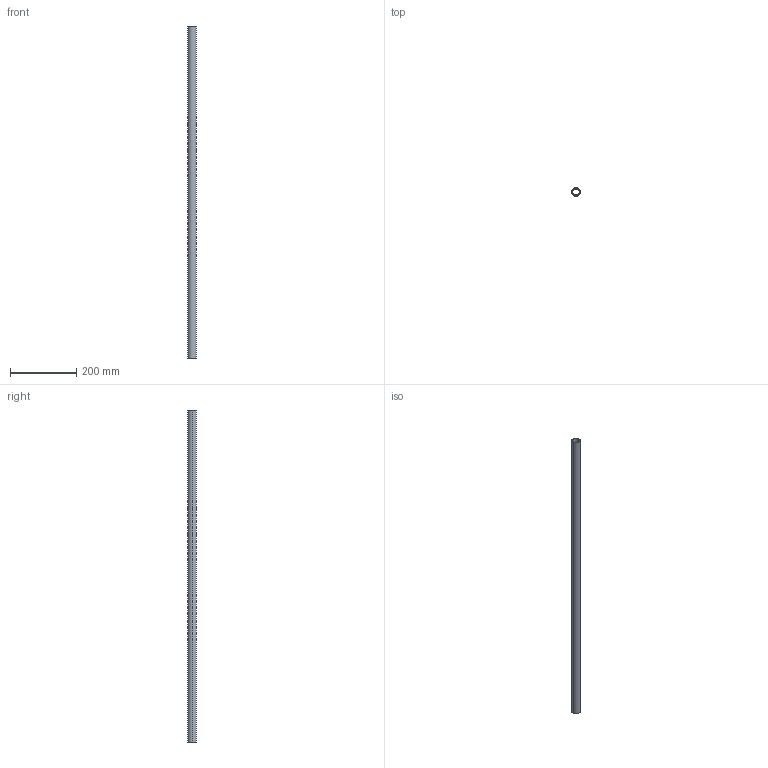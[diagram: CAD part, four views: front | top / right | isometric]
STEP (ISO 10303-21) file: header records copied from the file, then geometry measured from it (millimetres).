
FILE_DESCRIPTION (( 'STEP AP214' ), '1' );
FILE_NAME ('PAT25-1000.STEP', '2022-12-13T00:43:11', ( '' ), ( '' ), 'SwSTEP 2.0', 'SolidWorks 2018', '' );
FILE_SCHEMA (( 'AUTOMOTIVE_DESIGN' ));
Length unit declared in the file: millimetre
Products named in the file (1): PAT25-1000
Bounding box: 25 x 25 x 1000 mm (x, y, z)
Volume: 176714.6 mm3; surface area: 141725.1 mm2
Topology: 1 solids, 1 shells, 6 faces, 12 edges, 8 vertices
Faces by surface type: cylinder 4, plane 2
Entity records: 202 total; most frequent: DIRECTION 34, CARTESIAN_POINT 27, ORIENTED_EDGE 24, AXIS2_PLACEMENT_3D 15, EDGE_CURVE 12, EDGE_LOOP 8, VERTEX_POINT 8, CIRCLE 8
